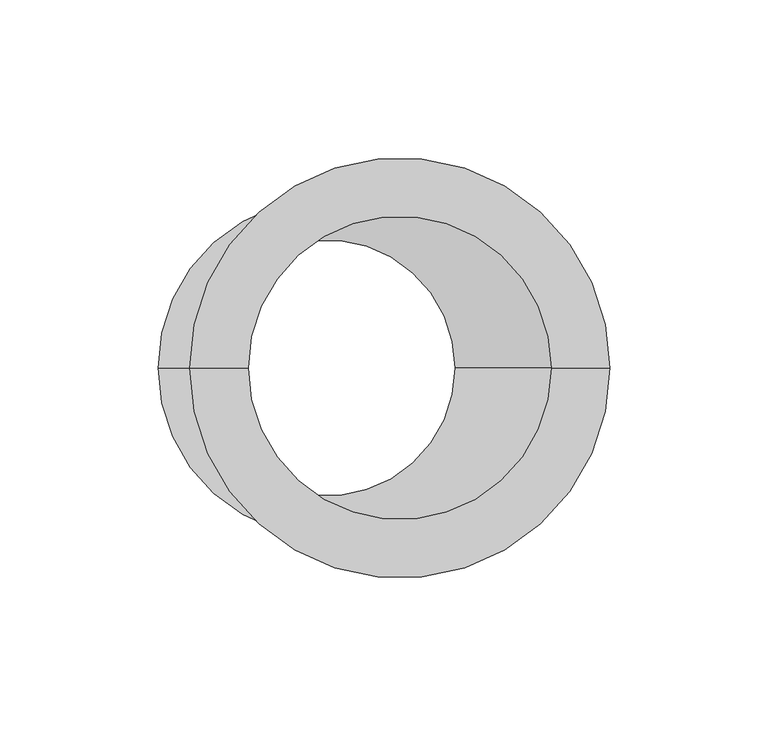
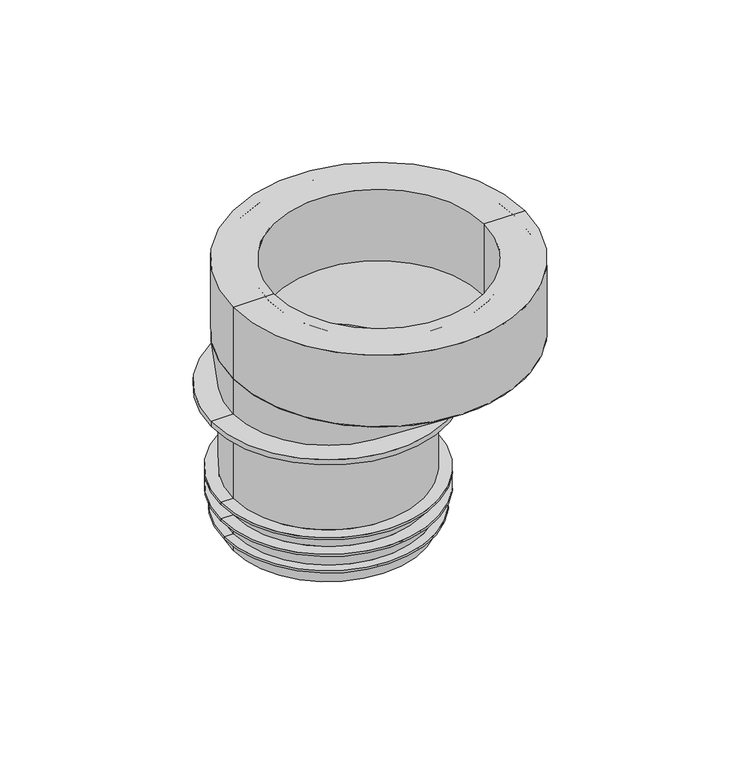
"""IFC4 building model written with IfcOpenShell, lengths in millimetres: sanitary terminal geometry, RSen_52_PIF_UN_closet connector no.8 w_wisa : manchet_wisa_no 8 w wit."""

from ifc_helpers import new_model, si_unit, point, frame, origin, place, context, project, spatial, polyline, circle_curve, ellipse_curve, trimmed, source, transform, mapped, element, save
from ifc_brep_helpers import plane_surface, cylinder_surface, revolved_surface, spline_surface, advanced_brep


def sanitary_terminal_dcbacdb9(model_context):
    return source(origin(), model_context, "Body", "AdvancedBrep", [
        advanced_brep(
        [(89.5, 0.0, -34.5270243), (-43.5, 0.0, -34.5270243), (86.5, 0.0, -34.5270243), (-40.5, 0.0, -34.5270243), (43.5, 0.0, -51.3008302), (-43.5, 0.0, -51.3008302), (-40.5, 0.0, -51.3008302), (40.5, 0.0, -51.3008302)],
        [
            (0, 1, circle_curve(frame((23.0, 0.0, -34.5270243), z_axis=(0.0, 0.0, 1.0), x_axis=(1.0, 0.0, 0.0)), 66.5)),
            (1, 0, circle_curve(frame((23.0, 0.0, -34.5270243), z_axis=(0.0, 0.0, 1.0), x_axis=(1.0, 0.0, 0.0)), 66.5)),
            (2, 3, circle_curve(frame((23.0, 0.0, -34.5270243), z_axis=(0.0, 0.0, -1.0), x_axis=(1.0, 0.0, 0.0)), 63.5)),
            (3, 2, circle_curve(frame((23.0, 0.0, -34.5270243), z_axis=(0.0, 0.0, -1.0), x_axis=(1.0, 0.0, 0.0)), 63.5)),
            (4, 5, circle_curve(frame((0.0, 0.0, -51.3008302), z_axis=(0.0, 0.0, -1.0), x_axis=(1.0, 0.0, 0.0)), 43.5)),
            (5, 4, circle_curve(frame((0.0, 0.0, -51.3008302), z_axis=(0.0, 0.0, -1.0), x_axis=(1.0, 0.0, 0.0)), 43.5)),
            (6, 7, circle_curve(frame((0.0, 0.0, -51.3008302), z_axis=(0.0, 0.0, 1.0), x_axis=(1.0, 0.0, 0.0)), 40.5)),
            (7, 6, circle_curve(frame((0.0, 0.0, -51.3008302), z_axis=(0.0, 0.0, 1.0), x_axis=(1.0, 0.0, 0.0)), 40.5)),
            (0, 4),
            (5, 1),
            (6, 3),
            (2, 7),
        ],
        [
            plane_surface(frame((23.0, 0.0, -34.5270243), z_axis=(0.0, 0.0, 1.0), x_axis=(0.0, 1.0, 0.0))),
            plane_surface(frame((0.0, 0.0, -51.3008302), z_axis=(0.0, 0.0, -1.0), x_axis=(0.0, 1.0, 0.0))),
            spline_surface(2, 1, [[(43.5, 0.0, -51.3008302), (89.5, 0.0, -34.5270243)], [(43.5, 43.5, -51.3008302), (89.5, 66.5, -34.5270243)], [(0.0, 43.5, -51.3008302), (23.0, 66.5, -34.5270243)], [(-43.5, 43.5, -51.3008302), (-43.5, 66.5, -34.5270243)], [(-43.5, 0.0, -51.3008302), (-43.5, 0.0, -34.5270243)]], [3, 2, 3], [2, 2], [0.0, 1.0, 2.0], [0.0, 1.0], weights=[[1.0, 1.0], [0.7071067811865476, 0.7071067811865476], [1.0, 1.0], [0.7071067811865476, 0.7071067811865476], [1.0, 1.0]]),
            spline_surface(2, 1, [[(-43.5, 0.0, -51.3008302), (-43.5, 0.0, -34.5270243)], [(-43.5, -43.5, -51.3008302), (-43.5, -66.5, -34.5270243)], [(0.0, -43.5, -51.3008302), (23.0, -66.5, -34.5270243)], [(43.5, -43.5, -51.3008302), (89.5, -66.5, -34.5270243)], [(43.5, 0.0, -51.3008302), (89.5, 0.0, -34.5270243)]], [3, 2, 3], [2, 2], [0.0, 1.0, 2.0], [0.0, 1.0], weights=[[1.0, 1.0], [0.7071067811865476, 0.7071067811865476], [1.0, 1.0], [0.7071067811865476, 0.7071067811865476], [1.0, 1.0]]),
            spline_surface(1, 2, [[(-40.5, 0.0, -51.3008302), (-40.5, -40.5, -51.3008302), (0.0, -40.5, -51.3008302), (40.5, -40.5, -51.3008302), (40.5, 0.0, -51.3008302)], [(-40.5, 0.0, -34.5270243), (-40.5, -63.5, -34.5270243), (23.0, -63.5, -34.5270243), (86.5, -63.5, -34.5270243), (86.5, 0.0, -34.5270243)]], [2, 2], [3, 2, 3], [0.0, 1.0], [0.0, 1.0, 2.0], weights=[[1.0, 0.7071067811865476, 1.0, 0.7071067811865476, 1.0], [1.0, 0.7071067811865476, 1.0, 0.7071067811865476, 1.0]]),
            spline_surface(1, 2, [[(40.5, 0.0, -51.3008302), (40.5, 40.5, -51.3008302), (0.0, 40.5, -51.3008302), (-40.5, 40.5, -51.3008302), (-40.5, 0.0, -51.3008302)], [(86.5, 0.0, -34.5270243), (86.5, 63.5, -34.5270243), (23.0, 63.5, -34.5270243), (-40.5, 63.5, -34.5270243), (-40.5, 0.0, -34.5270243)]], [2, 2], [3, 2, 3], [0.0, 1.0], [0.0, 1.0, 2.0], weights=[[1.0, 0.7071067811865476, 1.0, 0.7071067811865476, 1.0], [1.0, 0.7071067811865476, 1.0, 0.7071067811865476, 1.0]]),
        ],
        [
            (0, [[1, 2], [3, 4]]),
            (1, [[5, 6], [7, 8]]),
            (2, [[-1, 9, -6, 10]]),
            (3, [[-2, -10, -5, -9]]),
            (4, [[11, -3, 12, -7]]),
            (5, [[-11, -8, -12, -4]]),
        ],
    ),
        advanced_brep(
        [(-43.5, 0.0, 0.0), (89.5, 0.0, 0.0), (89.5, 0.0, -34.5270243), (-43.5, 0.0, -34.5270243), (-25.0, 0.0, 0.0), (71.0, 0.0, 0.0), (-25.0, 0.0, -34.5270243), (71.0, 0.0, -34.5270243), (-27.0, 0.0, -34.5270243), (73.0, 0.0, -34.5270243), (-27.0, 0.0, -3.5), (73.0, 0.0, -3.5), (-28.5, 0.0, -2.0), (74.5, 0.0, -2.0), (-39.0, 0.0, -2.0), (85.0, 0.0, -2.0), (-40.5, 0.0, -3.5), (86.5, 0.0, -3.5), (-40.5, 0.0, -34.5270243), (86.5, 0.0, -34.5270243)],
        [
            (0, 1, circle_curve(frame((23.0, 0.0, 0.0), z_axis=(0.0, 0.0, -1.0), x_axis=(1.0, 0.0, 0.0)), 66.5)),
            (1, 2),
            (2, 3, circle_curve(frame((23.0, 0.0, -34.5270243), z_axis=(0.0, 0.0, 1.0), x_axis=(1.0, 0.0, 0.0)), 66.5)),
            (3, 0),
            (1, 0, circle_curve(frame((23.0, 0.0, 0.0), z_axis=(0.0, 0.0, -1.0), x_axis=(1.0, 0.0, 0.0)), 66.5)),
            (3, 2, circle_curve(frame((23.0, 0.0, -34.5270243), z_axis=(0.0, 0.0, 1.0), x_axis=(1.0, 0.0, 0.0)), 66.5)),
            (4, 5, circle_curve(frame((23.0, 0.0, 0.0), z_axis=(0.0, 0.0, -1.0), x_axis=(1.0, 0.0, 0.0)), 48.0)),
            (5, 1),
            (0, 4),
            (5, 4, circle_curve(frame((23.0, 0.0, 0.0), z_axis=(0.0, 0.0, -1.0), x_axis=(1.0, 0.0, 0.0)), 48.0)),
            (6, 7, circle_curve(frame((23.0, 0.0, -34.5270243), z_axis=(0.0, 0.0, -1.0), x_axis=(1.0, 0.0, 0.0)), 48.0)),
            (7, 5),
            (4, 6),
            (7, 6, circle_curve(frame((23.0, 0.0, -34.5270243), z_axis=(0.0, 0.0, -1.0), x_axis=(1.0, 0.0, 0.0)), 48.0)),
            (8, 9, circle_curve(frame((23.0, 0.0, -34.5270243), z_axis=(0.0, 0.0, -1.0), x_axis=(1.0, 0.0, 0.0)), 50.0)),
            (9, 7),
            (6, 8),
            (9, 8, circle_curve(frame((23.0, 0.0, -34.5270243), z_axis=(0.0, 0.0, -1.0), x_axis=(1.0, 0.0, 0.0)), 50.0)),
            (10, 11, circle_curve(frame((23.0, 0.0, -3.5), z_axis=(0.0, 0.0, -1.0), x_axis=(1.0, 0.0, 0.0)), 50.0)),
            (11, 9),
            (8, 10),
            (11, 10, circle_curve(frame((23.0, 0.0, -3.5), z_axis=(0.0, 0.0, -1.0), x_axis=(1.0, 0.0, 0.0)), 50.0)),
            (12, 13, circle_curve(frame((23.0, 0.0, -2.0), z_axis=(0.0, 0.0, -1.0), x_axis=(1.0, 0.0, 0.0)), 51.5)),
            (13, 11, circle_curve(frame((74.5, 0.0, -3.5), z_axis=(0.0, -1.0, 0.0), x_axis=(1.0, 0.0, 0.0)), 1.5)),
            (10, 12, circle_curve(frame((-28.5, 0.0, -3.5), z_axis=(0.0, -1.0, 0.0), x_axis=(-1.0, 0.0, 0.0)), 1.5)),
            (13, 12, circle_curve(frame((23.0, 0.0, -2.0), z_axis=(0.0, 0.0, -1.0), x_axis=(1.0, 0.0, 0.0)), 51.5)),
            (14, 15, circle_curve(frame((23.0, 0.0, -2.0), z_axis=(0.0, 0.0, -1.0), x_axis=(1.0, 0.0, 0.0)), 62.0)),
            (15, 13),
            (12, 14),
            (15, 14, circle_curve(frame((23.0, 0.0, -2.0), z_axis=(0.0, 0.0, -1.0), x_axis=(1.0, 0.0, 0.0)), 62.0)),
            (16, 17, circle_curve(frame((23.0, 0.0, -3.5), z_axis=(0.0, 0.0, -1.0), x_axis=(1.0, 0.0, 0.0)), 63.5)),
            (17, 15, circle_curve(frame((85.0, 0.0, -3.5), z_axis=(0.0, -1.0, 0.0), x_axis=(1.0, 0.0, 0.0)), 1.5)),
            (14, 16, circle_curve(frame((-39.0, 0.0, -3.5), z_axis=(0.0, -1.0, 0.0), x_axis=(-1.0, 0.0, 0.0)), 1.5)),
            (17, 16, circle_curve(frame((23.0, 0.0, -3.5), z_axis=(0.0, 0.0, -1.0), x_axis=(1.0, 0.0, 0.0)), 63.5)),
            (18, 19, circle_curve(frame((23.0, 0.0, -34.5270243), z_axis=(0.0, 0.0, -1.0), x_axis=(1.0, 0.0, 0.0)), 63.5)),
            (19, 17),
            (16, 18),
            (19, 18, circle_curve(frame((23.0, 0.0, -34.5270243), z_axis=(0.0, 0.0, -1.0), x_axis=(1.0, 0.0, 0.0)), 63.5)),
            (2, 19),
            (18, 3),
        ],
        [
            cylinder_surface(frame((23.0, 0.0, 53.1587864), z_axis=(0.0, 0.0, 1.0), x_axis=(1.0, 0.0, 0.0)), 66.5),
            plane_surface(frame((23.0, 0.0, 0.0), z_axis=(0.0, 0.0, 1.0), x_axis=(1.0, 0.0, 0.0))),
            revolved_surface(polyline([(71.0, 0.0, 0.0), (71.0, 0.0, -34.527024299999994)]), (23.0, 0.0, 53.1587864), (0.0, 0.0, 1.0)),
            plane_surface(frame((23.0, 0.0, -34.5270243), z_axis=(0.0, 0.0, -1.0), x_axis=(1.0, 0.0, 0.0))),
            cylinder_surface(frame((23.0, 0.0, 53.1587864), z_axis=(0.0, 0.0, 1.0), x_axis=(1.0, 0.0, 0.0)), 50.0),
            revolved_surface(trimmed(ellipse_curve(frame((74.5, 0.0, -3.5), z_axis=(0.0, 1.0, 0.0), x_axis=(1.0, 0.0, 0.0)), 1.5, 1.5), [point((73.0, 0.0, -3.5))], [point((74.5, 0.0, -2.0))], True, "CARTESIAN"), (23.0, 0.0, 53.1587864), (0.0, 0.0, 1.0)),
            plane_surface(frame((23.0, 0.0, -2.0), z_axis=(0.0, 0.0, -1.0), x_axis=(1.0, 0.0, 0.0))),
            revolved_surface(trimmed(ellipse_curve(frame((85.0, 0.0, -3.5), z_axis=(0.0, 1.0, 0.0), x_axis=(1.0, 0.0, 0.0)), 1.5, 1.5), [point((85.0, 0.0, -2.0))], [point((86.5, 0.0, -3.5))], True, "CARTESIAN"), (23.0, 0.0, 53.1587864), (0.0, 0.0, 1.0)),
            revolved_surface(polyline([(86.5, 0.0, -3.5), (86.5, 0.0, -34.527024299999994)]), (23.0, 0.0, 53.1587864), (0.0, 0.0, 1.0)),
        ],
        [
            (0, [[1, 2, 3, 4]]),
            (0, [[5, -4, 6, -2]]),
            (1, [[7, 8, -1, 9]]),
            (1, [[10, -9, -5, -8]]),
            (2, [[11, 12, -7, 13]]),
            (2, [[14, -13, -10, -12]]),
            (3, [[15, 16, -11, 17]]),
            (3, [[18, -17, -14, -16]]),
            (4, [[19, 20, -15, 21]]),
            (4, [[22, -21, -18, -20]]),
            (5, [[23, 24, -19, 25]]),
            (5, [[26, -25, -22, -24]]),
            (6, [[27, 28, -23, 29]]),
            (6, [[30, -29, -26, -28]]),
            (7, [[31, 32, -27, 33]]),
            (7, [[34, -33, -30, -32]]),
            (8, [[35, 36, -31, 37]]),
            (8, [[38, -37, -34, -36]]),
            (3, [[-3, 39, -35, 40]]),
            (3, [[-6, -40, -38, -39]]),
        ],
    ),
        advanced_brep(
        [(-47.5, 0.0, -110.0), (47.5, 0.0, -110.0), (43.5, 0.0, -110.0), (-43.5, 0.0, -110.0), (-47.5, 0.0, -109.0), (47.5, 0.0, -109.0), (-43.5, 0.0, -109.0), (43.5, 0.0, -109.0), (-43.5, 0.0, -101.0), (43.5, 0.0, -101.0), (-49.0, 0.0, -101.0), (49.0, 0.0, -101.0), (-49.0, 0.0, -100.0363869), (49.0, 0.0, -100.0363869), (-43.5, 0.0, -100.0363869), (43.5, 0.0, -100.0363869), (-43.5, 0.0, -93.0363869), (43.5, 0.0, -93.0363869), (-49.0, 0.0, -93.0363869), (49.0, 0.0, -93.0363869), (-49.0, 0.0, -92.0409026), (49.0, 0.0, -92.0409026), (-43.5, 0.0, -92.0409026), (43.5, 0.0, -92.0409026), (-43.5, 0.0, -53.8008302), (43.5, 0.0, -53.8008302), (-40.5, 0.0, -112.3809797), (40.5, 0.0, -112.3809797), (40.5, 0.0, -51.3008302), (-40.5, 0.0, -51.3008302), (-40.5, 0.0, -117.0), (40.5, 0.0, -117.0), (-43.5, 0.0, -117.0), (43.5, 0.0, -117.0), (53.5, 0.0, -51.3008302), (-53.5, 0.0, -51.3008302), (-53.5, 0.0, -53.8008302), (53.5, 0.0, -53.8008302)],
        [
            (0, 1, circle_curve(frame((0.0, 0.0, -110.0), z_axis=(0.0, 0.0, -1.0), x_axis=(1.0, 0.0, 0.0)), 47.5)),
            (1, 2),
            (2, 3, circle_curve(frame((0.0, 0.0, -110.0), z_axis=(0.0, 0.0, 1.0), x_axis=(1.0, 0.0, 0.0)), 43.5)),
            (3, 0),
            (1, 0, circle_curve(frame((0.0, 0.0, -110.0), z_axis=(0.0, 0.0, -1.0), x_axis=(1.0, 0.0, 0.0)), 47.5)),
            (3, 2, circle_curve(frame((0.0, 0.0, -110.0), z_axis=(0.0, 0.0, 1.0), x_axis=(1.0, 0.0, 0.0)), 43.5)),
            (4, 5, circle_curve(frame((0.0, 0.0, -109.0), z_axis=(0.0, 0.0, -1.0), x_axis=(1.0, 0.0, 0.0)), 47.5)),
            (5, 1),
            (0, 4),
            (5, 4, circle_curve(frame((0.0, 0.0, -109.0), z_axis=(0.0, 0.0, -1.0), x_axis=(1.0, 0.0, 0.0)), 47.5)),
            (6, 7, circle_curve(frame((0.0, 0.0, -109.0), z_axis=(0.0, 0.0, -1.0), x_axis=(1.0, 0.0, 0.0)), 43.5)),
            (7, 5),
            (4, 6),
            (7, 6, circle_curve(frame((0.0, 0.0, -109.0), z_axis=(0.0, 0.0, -1.0), x_axis=(1.0, 0.0, 0.0)), 43.5)),
            (8, 9, circle_curve(frame((0.0, 0.0, -101.0), z_axis=(0.0, 0.0, -1.0), x_axis=(1.0, 0.0, 0.0)), 43.5)),
            (9, 7),
            (6, 8),
            (9, 8, circle_curve(frame((0.0, 0.0, -101.0), z_axis=(0.0, 0.0, -1.0), x_axis=(1.0, 0.0, 0.0)), 43.5)),
            (10, 11, circle_curve(frame((0.0, 0.0, -101.0), z_axis=(0.0, 0.0, -1.0), x_axis=(1.0, 0.0, 0.0)), 49.0)),
            (11, 9),
            (8, 10),
            (11, 10, circle_curve(frame((0.0, 0.0, -101.0), z_axis=(0.0, 0.0, -1.0), x_axis=(1.0, 0.0, 0.0)), 49.0)),
            (12, 13, circle_curve(frame((0.0, 0.0, -100.0363869), z_axis=(0.0, 0.0, -1.0), x_axis=(1.0, 0.0, 0.0)), 49.0)),
            (13, 11),
            (10, 12),
            (13, 12, circle_curve(frame((0.0, 0.0, -100.0363869), z_axis=(0.0, 0.0, -1.0), x_axis=(1.0, 0.0, 0.0)), 49.0)),
            (14, 15, circle_curve(frame((0.0, 0.0, -100.0363869), z_axis=(0.0, 0.0, -1.0), x_axis=(1.0, 0.0, 0.0)), 43.5)),
            (15, 13),
            (12, 14),
            (15, 14, circle_curve(frame((0.0, 0.0, -100.0363869), z_axis=(0.0, 0.0, -1.0), x_axis=(1.0, 0.0, 0.0)), 43.5)),
            (16, 17, circle_curve(frame((0.0, 0.0, -93.0363869), z_axis=(0.0, 0.0, -1.0), x_axis=(1.0, 0.0, 0.0)), 43.5)),
            (17, 15),
            (14, 16),
            (17, 16, circle_curve(frame((0.0, 0.0, -93.0363869), z_axis=(0.0, 0.0, -1.0), x_axis=(1.0, 0.0, 0.0)), 43.5)),
            (18, 19, circle_curve(frame((0.0, 0.0, -93.0363869), z_axis=(0.0, 0.0, -1.0), x_axis=(1.0, 0.0, 0.0)), 49.0)),
            (19, 17),
            (16, 18),
            (19, 18, circle_curve(frame((0.0, 0.0, -93.0363869), z_axis=(0.0, 0.0, -1.0), x_axis=(1.0, 0.0, 0.0)), 49.0)),
            (20, 21, circle_curve(frame((0.0, 0.0, -92.0409026), z_axis=(0.0, 0.0, -1.0), x_axis=(1.0, 0.0, 0.0)), 49.0)),
            (21, 19),
            (18, 20),
            (21, 20, circle_curve(frame((0.0, 0.0, -92.0409026), z_axis=(0.0, 0.0, -1.0), x_axis=(1.0, 0.0, 0.0)), 49.0)),
            (22, 23, circle_curve(frame((0.0, 0.0, -92.0409026), z_axis=(0.0, 0.0, -1.0), x_axis=(1.0, 0.0, 0.0)), 43.5)),
            (23, 21),
            (20, 22),
            (23, 22, circle_curve(frame((0.0, 0.0, -92.0409026), z_axis=(0.0, 0.0, -1.0), x_axis=(1.0, 0.0, 0.0)), 43.5)),
            (24, 25, circle_curve(frame((0.0, 0.0, -53.8008302), z_axis=(0.0, 0.0, -1.0), x_axis=(1.0, 0.0, 0.0)), 43.5)),
            (25, 23),
            (22, 24),
            (25, 24, circle_curve(frame((0.0, 0.0, -53.8008302), z_axis=(0.0, 0.0, -1.0), x_axis=(1.0, 0.0, 0.0)), 43.5)),
            (26, 27, circle_curve(frame((0.0, 0.0, -112.3809797), z_axis=(0.0, 0.0, -1.0), x_axis=(1.0, 0.0, 0.0)), 40.5)),
            (27, 28),
            (28, 29, circle_curve(frame((0.0, 0.0, -51.3008302), z_axis=(0.0, 0.0, 1.0), x_axis=(1.0, 0.0, 0.0)), 40.5)),
            (29, 26),
            (27, 26, circle_curve(frame((0.0, 0.0, -112.3809797), z_axis=(0.0, 0.0, -1.0), x_axis=(1.0, 0.0, 0.0)), 40.5)),
            (29, 28, circle_curve(frame((0.0, 0.0, -51.3008302), z_axis=(0.0, 0.0, 1.0), x_axis=(1.0, 0.0, 0.0)), 40.5)),
            (30, 31, circle_curve(frame((0.0, 0.0, -117.0), z_axis=(0.0, 0.0, -1.0), x_axis=(1.0, 0.0, 0.0)), 40.5)),
            (31, 27),
            (26, 30),
            (31, 30, circle_curve(frame((0.0, 0.0, -117.0), z_axis=(0.0, 0.0, -1.0), x_axis=(1.0, 0.0, 0.0)), 40.5)),
            (32, 33, circle_curve(frame((0.0, 0.0, -117.0), z_axis=(0.0, 0.0, -1.0), x_axis=(1.0, 0.0, 0.0)), 43.5)),
            (33, 31),
            (30, 32),
            (33, 32, circle_curve(frame((0.0, 0.0, -117.0), z_axis=(0.0, 0.0, -1.0), x_axis=(1.0, 0.0, 0.0)), 43.5)),
            (2, 33),
            (32, 3),
            (28, 34),
            (34, 35, circle_curve(frame((0.0, 0.0, -51.3008302), z_axis=(0.0, 0.0, 1.0), x_axis=(1.0, 0.0, 0.0)), 53.5)),
            (35, 29),
            (35, 34, circle_curve(frame((0.0, 0.0, -51.3008302), z_axis=(0.0, 0.0, 1.0), x_axis=(1.0, 0.0, 0.0)), 53.5)),
            (36, 37, circle_curve(frame((0.0, 0.0, -53.8008302), z_axis=(0.0, 0.0, -1.0), x_axis=(1.0, 0.0, 0.0)), 53.5)),
            (37, 25),
            (24, 36),
            (37, 36, circle_curve(frame((0.0, 0.0, -53.8008302), z_axis=(0.0, 0.0, -1.0), x_axis=(1.0, 0.0, 0.0)), 53.5)),
            (34, 37),
            (36, 35),
        ],
        [
            plane_surface(frame((0.0, 0.0, -110.0), z_axis=(0.0, 0.0, -1.0), x_axis=(1.0, 0.0, 0.0))),
            cylinder_surface(frame((0.0, 0.0, 150.0), z_axis=(0.0, 0.0, 1.0), x_axis=(1.0, 0.0, 0.0)), 47.5),
            plane_surface(frame((0.0, 0.0, -109.0), z_axis=(0.0, 0.0, 1.0), x_axis=(1.0, 0.0, 0.0))),
            cylinder_surface(frame((0.0, 0.0, 150.0), z_axis=(0.0, 0.0, 1.0), x_axis=(1.0, 0.0, 0.0)), 43.5),
            plane_surface(frame((0.0, 0.0, -101.0), z_axis=(0.0, 0.0, -1.0), x_axis=(1.0, 0.0, 0.0))),
            cylinder_surface(frame((0.0, 0.0, 150.0), z_axis=(0.0, 0.0, 1.0), x_axis=(1.0, 0.0, 0.0)), 49.0),
            plane_surface(frame((0.0, 0.0, -100.0363869), z_axis=(0.0, 0.0, 1.0), x_axis=(1.0, 0.0, 0.0))),
            plane_surface(frame((0.0, 0.0, -93.0363869), z_axis=(0.0, 0.0, -1.0), x_axis=(1.0, 0.0, 0.0))),
            plane_surface(frame((0.0, 0.0, -92.0409026), z_axis=(0.0, 0.0, 1.0), x_axis=(1.0, 0.0, 0.0))),
            revolved_surface(polyline([(40.5, 0.0, -51.30083020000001), (40.5, 0.0, -112.38097970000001)]), (0.0, 0.0, 150.0), (0.0, 0.0, 1.0)),
            revolved_surface(polyline([(40.5, 0.0, -112.38097970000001), (40.5, 0.0, -117.0)]), (0.0, 0.0, 150.0), (0.0, 0.0, 1.0)),
            plane_surface(frame((0.0, 0.0, -117.0), z_axis=(0.0, 0.0, -1.0), x_axis=(1.0, 0.0, 0.0))),
            plane_surface(frame((0.0, 0.0, -51.3008302), z_axis=(0.0, 0.0, 1.0), x_axis=(1.0, 0.0, 0.0))),
            plane_surface(frame((0.0, 0.0, -53.8008302), z_axis=(0.0, 0.0, -1.0), x_axis=(1.0, 0.0, 0.0))),
            cylinder_surface(frame((0.0, 0.0, 150.0), z_axis=(0.0, 0.0, 1.0), x_axis=(1.0, 0.0, 0.0)), 53.5),
        ],
        [
            (0, [[1, 2, 3, 4]]),
            (0, [[5, -4, 6, -2]]),
            (1, [[7, 8, -1, 9]]),
            (1, [[10, -9, -5, -8]]),
            (2, [[11, 12, -7, 13]]),
            (2, [[14, -13, -10, -12]]),
            (3, [[15, 16, -11, 17]]),
            (3, [[18, -17, -14, -16]]),
            (4, [[19, 20, -15, 21]]),
            (4, [[22, -21, -18, -20]]),
            (5, [[23, 24, -19, 25]]),
            (5, [[26, -25, -22, -24]]),
            (6, [[27, 28, -23, 29]]),
            (6, [[30, -29, -26, -28]]),
            (3, [[31, 32, -27, 33]]),
            (3, [[34, -33, -30, -32]]),
            (7, [[35, 36, -31, 37]]),
            (7, [[38, -37, -34, -36]]),
            (5, [[39, 40, -35, 41]]),
            (5, [[42, -41, -38, -40]]),
            (8, [[43, 44, -39, 45]]),
            (8, [[46, -45, -42, -44]]),
            (3, [[47, 48, -43, 49]]),
            (3, [[50, -49, -46, -48]]),
            (9, [[51, 52, 53, 54]]),
            (9, [[55, -54, 56, -52]]),
            (10, [[57, 58, -51, 59]]),
            (10, [[60, -59, -55, -58]]),
            (11, [[61, 62, -57, 63]]),
            (11, [[64, -63, -60, -62]]),
            (3, [[-3, 65, -61, 66]]),
            (3, [[-6, -66, -64, -65]]),
            (12, [[-53, 67, 68, 69]]),
            (12, [[-56, -69, 70, -67]]),
            (13, [[71, 72, -47, 73]]),
            (13, [[74, -73, -50, -72]]),
            (14, [[-68, 75, -71, 76]]),
            (14, [[-70, -76, -74, -75]]),
        ],
    ),
    ])


if __name__ == "__main__":
    model = new_model("IFC4")
    model_context = context("Model", 3, world=origin())
    ifc_project = project(units=[si_unit("LENGTHUNIT", "METRE", prefix="MILLI")], contexts=[model_context])
    site = spatial("IfcSite", under=ifc_project)
    building = spatial("IfcBuilding", under=site)
    placement = place(None, origin())
    sanitary_terminal_shape = sanitary_terminal_dcbacdb9(model_context)
    element("IfcSanitaryTerminal", 1, ObjectType="RSen_52_PIF_UN_closet connector no.8 w_wisa : manchet_wisa_no 8 w wit", at=placement, inside=building, context=model_context, shape_type="MappedRepresentation", body=[
        mapped(sanitary_terminal_shape, transform((0.0, 0.0, 0.0), x_axis=(1.0, 0.0, 0.0), y_axis=(0.0, 1.0, 0.0), z_axis=(0.0, 0.0, 1.0))),
    ])
    save(model, "model.ifc")
